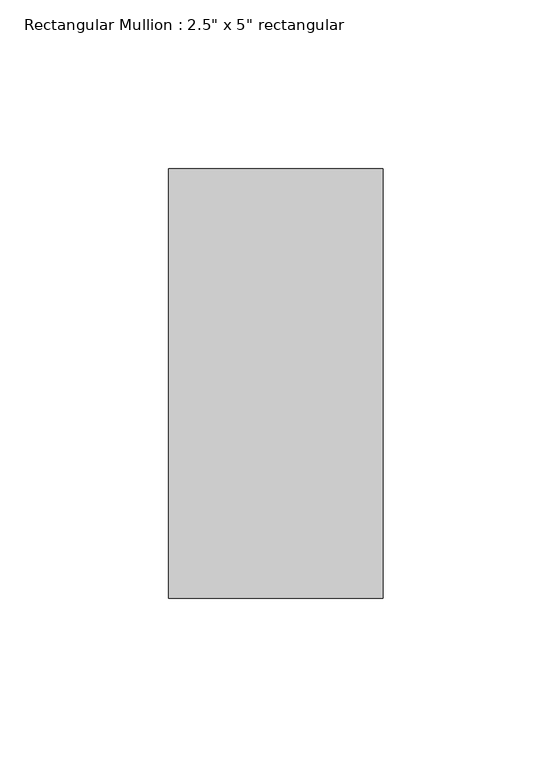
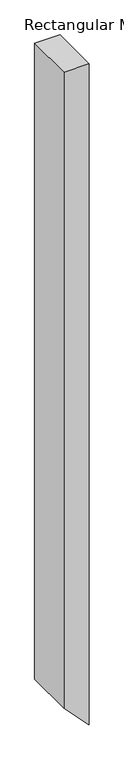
"""IFC4 building model written with IfcOpenShell, lengths in millimetres: member geometry."""

from ifc_helpers import new_model, si_unit, frame, origin, place, context, project, spatial, polyline, outline, extrude, source, transform, mapped, element, save


def member_fe9f8695(model_context):
    return source(origin(), model_context, "Body", "SweptSolid", [
        extrude(outline(polyline([(0.0, 0.0), (0.0, -63.5), (-1686.9452627, -63.5), (-1753.1453118, 0.0), (0.0, 0.0)])), frame((0.0, -63.5, 0.0), z_axis=(0.0, 1.0, 0.0), x_axis=(0.0, 0.0, 1.0)), (0.0, 0.0, 1.0), 127.0),
    ])


if __name__ == "__main__":
    model = new_model("IFC4")
    model_context = context("Model", 3, world=origin())
    ifc_project = project(units=[si_unit("LENGTHUNIT", "METRE", prefix="MILLI")], contexts=[model_context])
    site = spatial("IfcSite", under=ifc_project)
    building = spatial("IfcBuilding", under=site)
    placement = place(None, origin())
    member_shape = member_fe9f8695(model_context)
    element("IfcMember", 1, ObjectType="Rectangular Mullion : 2.5\" x 5\" rectangular", at=placement, inside=building, context=model_context, shape_type="MappedRepresentation", body=[
        mapped(member_shape, transform((0.0, 0.0, 0.0), x_axis=(1.0, 0.0, 0.0), y_axis=(0.0, 1.0, 0.0), z_axis=(0.0, 0.0, 1.0))),
    ])
    save(model, "model.ifc")
